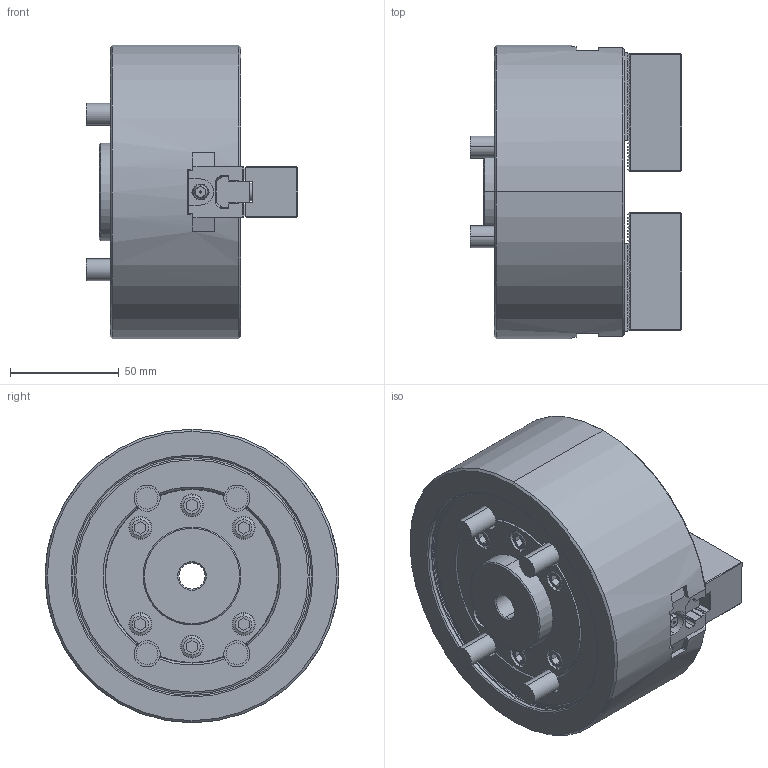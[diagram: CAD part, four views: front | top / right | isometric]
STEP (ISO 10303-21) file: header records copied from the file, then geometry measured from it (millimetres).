
FILE_DESCRIPTION (( 'STEP AP214' ), '1' );
FILE_NAME ('BT205_61P327190-6_OC.STEP', '2020-12-11T06:28:15', ( '' ), ( '' ), 'SwSTEP 2.0', 'SolidWorks 2017', '' );
FILE_SCHEMA (( 'AUTOMOTIVE_DESIGN' ));
Length unit declared in the file: millimetre
Products named in the file (14): BT205_BASE^61P327189-6_BT205 ASSY; BT205_61P327190-6_OC; Bアナツキ M8×20; 61P423688-4_ソフトジョー; 61P422113-1_T僫僢僩
Assembly tree (9 placements, depth 2):
  BT205_BASE^61P327189-6_BT205 ASSY
  BT205_61P327190-6_OC
    BT205_BASE^61P327189-6_BT205 ASSY
    61P422113-1_T僫僢僩  x2
    61P423688-4_ソフトジョー  x2
    Bアナツキ M8×20  x4
  61P423688-4_ソフトジョー
  Bアナツキ M8×20
  Bアナツキ M8×20
Bounding box: 97.2 x 135 x 135 mm (x, y, z)
Volume: 825148 mm3; surface area: 124882.1 mm2
Topology: 9 solids, 13 shells, 2363 faces, 6614 edges, 4366 vertices
Faces by surface type: plane 1655, cylinder 500, bspline 102, cone 74, torus 24, sphere 8
Entity records: 66495 total; most frequent: CARTESIAN_POINT 16208, ORIENTED_EDGE 10956, DIRECTION 9614, EDGE_CURVE 5478, LINE 4182, VECTOR 4182, VERTEX_POINT 3614, AXIS2_PLACEMENT_3D 2716
